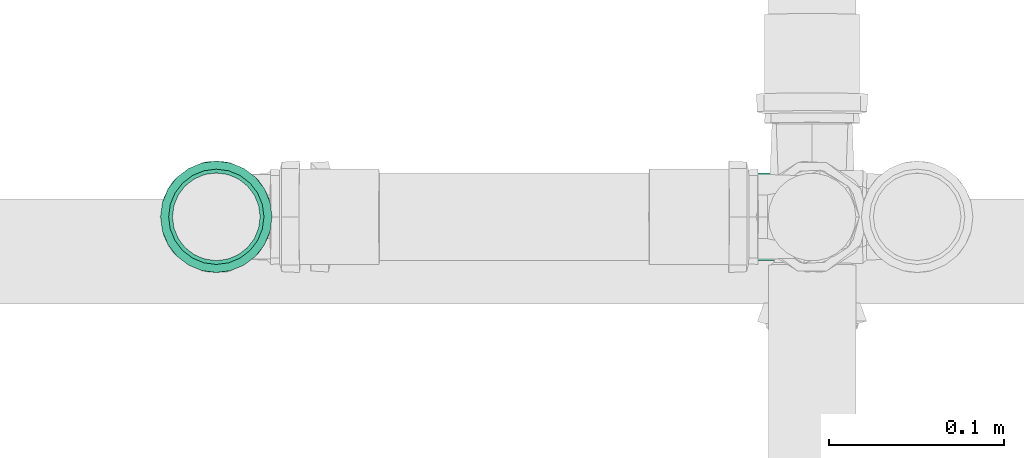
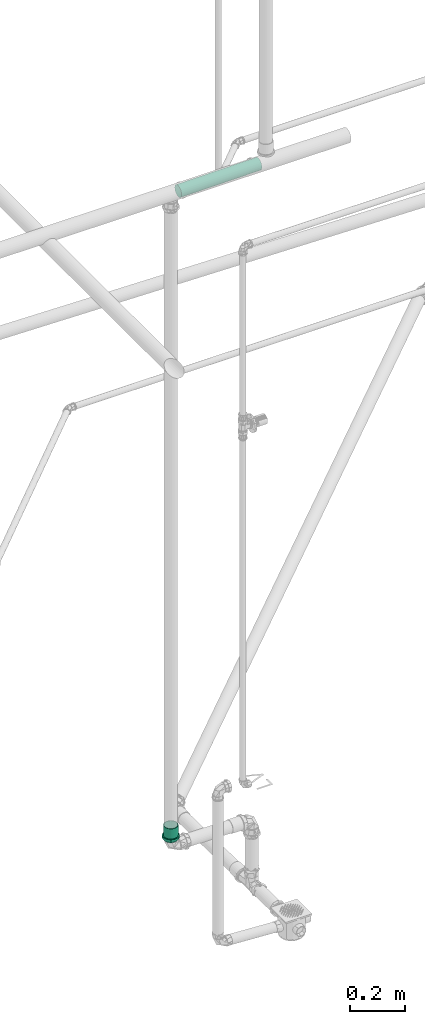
# One storey, part 120 of 589: 1 flow fitting, 1 flow segment.
"""IFC2X3 building model written with IfcOpenShell, lengths in millimetres."""

import ifcopenshell
import ifcopenshell.guid

model = None  # the IFC model being written
_history = None  # IfcOwnerHistory: only IFC2X3 demands one
_inside = {}  # id of a spatial element -> (the spatial element, [elements in it])
_under = {}  # id of a project, library or spatial element -> (it, [spatial elements below it])
_declared = {}  # id of a project -> (the project, [libraries it declares])
_typed = {}  # id of a type object -> (the type object, [elements of that type])
_made_of = {}  # id of a material, layer set ... -> (it, [elements and type objects made of it])


def new_model(schema):
    """Start an empty IFC model of exactly this schema.

    Asked for "IFC4X3", IfcOpenShell would pick the latest addendum, in which some entities
    have other attributes; the version numbers below select the first issue.
    IFC2X3 requires an IfcOwnerHistory on every rooted entity: one is made here for all.
    """
    global model, _history
    if schema == "IFC4X3":
        model = ifcopenshell.file(schema_version=(4, 3, 0, 0))
    else:
        model = ifcopenshell.file(schema=schema)
    _inside.clear()
    _under.clear()
    _declared.clear()
    _typed.clear()
    _made_of.clear()
    _history = None
    if model.schema == "IFC2X3":
        org = make("IfcOrganization", Name="unknown")
        user = make(
            "IfcPersonAndOrganization",
            ThePerson=make("IfcPerson", FamilyName="unknown"),
            TheOrganization=org,
        )
        app = make(
            "IfcApplication",
            ApplicationDeveloper=org,
            Version="unknown",
            ApplicationFullName="unknown",
            ApplicationIdentifier="unknown",
        )
        _history = make(
            "IfcOwnerHistory",
            OwningUser=user,
            OwningApplication=app,
            ChangeAction="ADDED",
            CreationDate=0,
        )
    return model


def make(cls, **values):
    """One entity of the class cls with the attributes given. An attribute that is None is left unset."""
    return model.create_entity(
        cls, **{name: value for name, value in values.items() if value is not None}
    )


def entity(cls, *values):
    """Any entity or typed value of the class cls, its attributes in the order of the schema. None: left unset."""
    e = model.create_entity(cls)
    for i, value in enumerate(values):
        if value is not None:
            e[i] = value
    return e


def rooted(cls, **values):
    """An entity with a GlobalId (a new one), such as an element, a storey or a relation."""
    return make(cls, GlobalId=ifcopenshell.guid.new(), OwnerHistory=_history, **values)


def si_unit(unit_type, name, prefix=None):
    """IfcSIUnit, for example si_unit("LENGTHUNIT", "METRE", prefix="MILLI")."""
    return make("IfcSIUnit", UnitType=unit_type, Prefix=prefix, Name=name)


def converted_unit(unit_type, name, factor, base, dimensions=None, offset=None):
    """IfcConversionBasedUnit, such as the inch: factor (a typed value) times the base unit."""
    return make(
        "IfcConversionBasedUnit"
        if offset is None
        else "IfcConversionBasedUnitWithOffset",
        ConversionOffset=offset,
        Dimensions=None
        if dimensions is None
        else entity("IfcDimensionalExponents", *dimensions),
        UnitType=unit_type,
        Name=name,
        ConversionFactor=make(
            "IfcMeasureWithUnit", ValueComponent=factor, UnitComponent=base
        ),
    )


def derived_unit(unit_type, elements):
    """IfcDerivedUnit: a product of units, each with its exponent."""
    return make(
        "IfcDerivedUnit",
        Elements=[
            make("IfcDerivedUnitElement", Unit=unit, Exponent=power)
            for unit, power in elements
        ],
        UnitType=unit_type,
    )


def assignment(units):
    """IfcUnitAssignment: the units of a project."""
    return None if units is None else make("IfcUnitAssignment", Units=units)


def point(xyz):
    """IfcCartesianPoint."""
    return None if xyz is None else make("IfcCartesianPoint", Coordinates=xyz)


def direction(xyz):
    """IfcDirection."""
    return None if xyz is None else make("IfcDirection", DirectionRatios=xyz)


def frame(location, z_axis=None, x_axis=None):
    """IfcAxis2Placement3D, a coordinate frame: its origin and axes. An axis left out is left unset."""
    return make(
        "IfcAxis2Placement3D",
        Location=point(location),
        Axis=direction(z_axis),
        RefDirection=direction(x_axis),
    )


def frame_2d(location, x_axis=None):
    """IfcAxis2Placement2D, a coordinate frame in the plane: its origin and x axis."""
    return make(
        "IfcAxis2Placement2D", Location=point(location), RefDirection=direction(x_axis)
    )


def origin():
    """The frame at (0, 0, 0) with its axes left unset."""
    return frame((0.0, 0.0, 0.0))


def place(relative_to, where):
    """IfcLocalPlacement: puts the frame where relative to a parent placement (None: the world)."""
    return make(
        "IfcLocalPlacement", PlacementRelTo=relative_to, RelativePlacement=where
    )


def context(
    kind, dimensions, precision=None, world=None, true_north=None, identifier=None
):
    """IfcGeometricRepresentationContext, for example the 3D "Model" context."""
    return make(
        "IfcGeometricRepresentationContext",
        ContextIdentifier=identifier,
        ContextType=kind,
        CoordinateSpaceDimension=dimensions,
        Precision=precision,
        WorldCoordinateSystem=world,
        TrueNorth=true_north,
    )


def subcontext(parent, identifier, kind, view, scale=None):
    """IfcGeometricRepresentationSubContext, for example "Body" below "Model"."""
    return make(
        "IfcGeometricRepresentationSubContext",
        ContextIdentifier=identifier,
        ContextType=kind,
        ParentContext=parent,
        TargetScale=scale,
        TargetView=view,
    )


def project(units=None, contexts=None):
    """IfcProject with its units and contexts."""
    return rooted(
        "IfcProject",
        Name="project",
        RepresentationContexts=contexts,
        UnitsInContext=assignment(units),
    )


def spatial(cls, under=None, at=None, **own):
    """A site, building, storey or space (cls), placed at a placement, below another one or the project."""
    s = rooted(cls, ObjectPlacement=at, **own)
    if under is not None:
        _under.setdefault(under.id(), (under, []))[1].append(s)
    return s


def profile(cls, at=None, kind="AREA", **sizes):
    """A parametric profile (cls). Its sizes go by their IFC names, for example OverallWidth=200.0."""
    return make(cls, ProfileType=kind, Position=at, **sizes)


def circle(**sizes):
    """IfcCircleProfileDef."""
    return profile("IfcCircleProfileDef", **sizes)


def extrude(swept, where, along, depth):
    """IfcExtrudedAreaSolid: the profile swept, set in the frame where, extruded along a direction by depth."""
    return make(
        "IfcExtrudedAreaSolid",
        SweptArea=swept,
        Position=where,
        ExtrudedDirection=direction(along),
        Depth=depth,
    )


def faces_of(points, faces, orient=None, outer=None):
    """IfcFace entities. A face is a list of loops; a loop is a list of indices into points, from 0.

    orient and outer hold one flag for each loop. By default every Orientation is true, the
    first loop of a face is its IfcFaceOuterBound and the others are IfcFaceBound.
    """
    made = []
    for i, loops in enumerate(faces):
        bounds = []
        for j, loop in enumerate(loops):
            is_outer = j == 0 if outer is None else outer[i][j]
            bounds.append(
                make(
                    "IfcFaceOuterBound" if is_outer else "IfcFaceBound",
                    Bound=make("IfcPolyLoop", Polygon=[points[k] for k in loop]),
                    Orientation=True if orient is None else orient[i][j],
                )
            )
        made.append(make("IfcFace", Bounds=bounds))
    return made


def faceted_brep(points, faces, orient=None, outer=None, voids=None):
    """IfcFacetedBrep: a solid bounded by flat faces; with voids (closed shells), ...WithVoids."""
    shared = [point(p) for p in points]
    hull = make("IfcClosedShell", CfsFaces=faces_of(shared, faces, orient, outer))
    if voids is None:
        return make("IfcFacetedBrep", Outer=hull)
    return make(
        "IfcFacetedBrepWithVoids",
        Outer=hull,
        Voids=[
            make(cls, CfsFaces=faces_of(shared, fs, o, b)) for cls, fs, o, b in voids
        ],
    )


def shape(context_of_items, identifier, shape_type, items):
    """IfcShapeRepresentation: the items that make up one representation, for example the "Body"."""
    return make(
        "IfcShapeRepresentation",
        ContextOfItems=context_of_items,
        RepresentationIdentifier=identifier,
        RepresentationType=shape_type,
        Items=items,
    )


def source(mapping_origin, context_of_items, identifier, shape_type, items):
    """IfcRepresentationMap: a shape defined once, which mapped items show again and again."""
    return make(
        "IfcRepresentationMap",
        MappingOrigin=mapping_origin,
        MappedRepresentation=shape(context_of_items, identifier, shape_type, items),
    )


def transform(
    local_origin,
    x_axis=None,
    y_axis=None,
    z_axis=None,
    scale=None,
    scale2=None,
    scale3=None,
    uniform=True,
):
    """IfcCartesianTransformationOperator3D, or its non-uniform kind. x_axis, y_axis, z_axis: its Axis1, 2, 3."""
    if uniform:
        return make(
            "IfcCartesianTransformationOperator3D",
            Axis1=direction(x_axis),
            Axis2=direction(y_axis),
            LocalOrigin=point(local_origin),
            Scale=scale,
            Axis3=direction(z_axis),
        )
    return make(
        "IfcCartesianTransformationOperator3DnonUniform",
        Axis1=direction(x_axis),
        Axis2=direction(y_axis),
        LocalOrigin=point(local_origin),
        Scale=scale,
        Axis3=direction(z_axis),
        Scale2=scale2,
        Scale3=scale3,
    )


def mapped(mapping_source, mapping_target):
    """IfcMappedItem: shows the shape of a source again, moved by a transform."""
    return make(
        "IfcMappedItem", MappingSource=mapping_source, MappingTarget=mapping_target
    )


def material(Name=None, Category=None):
    """IfcMaterial."""
    return make("IfcMaterial", Name=Name, Category=Category)


def made_of(thing, what):
    """Note that an element or type object is made of a material, layer set ...; save() writes the relation."""
    if what is not None:
        _made_of.setdefault(what.id(), (what, []))[1].append(thing)
    return thing


def type_object(cls, material=None, **own):
    """A type object (cls), such as IfcWallType, which elements share."""
    return made_of(rooted(cls, **own), material)


def type_shapes(of_type, sources):
    """Give a type object the sources (RepresentationMaps) that its elements show as mapped items."""
    of_type.RepresentationMaps = sources


def element(
    cls,
    number,
    at=None,
    inside=None,
    cuts=None,
    type_object=None,
    material=None,
    context=None,
    identifier="Body",
    shape_type=None,
    held_by="IfcProductDefinitionShape",
    body=None,
    shapes=None,
    **own,
):
    """One element of the class cls, such as IfcWall. Its Tag is "e" and its number.

    at: its placement. inside: the storey or other place that contains it. cuts: it is an
    opening in that element (IfcRelVoidsElement). A single representation is given by context,
    identifier, shape_type and body (its items); several are given by shapes. held_by: the class
    of the entity that holds the representations. save() writes the other relations.
    """
    e = rooted(cls, Tag="e%d" % number, ObjectPlacement=at, **own)
    if body is not None:
        shapes = [shape(context, identifier, shape_type, body)]
    if shapes is not None:
        e.Representation = make(held_by, Representations=shapes)
    if inside is not None:
        _inside.setdefault(inside.id(), (inside, []))[1].append(e)
    if cuts is not None:
        rooted(
            "IfcRelVoidsElement", RelatingBuildingElement=cuts, RelatedOpeningElement=e
        )
    if type_object is not None:
        _typed.setdefault(type_object.id(), (type_object, []))[1].append(e)
    return made_of(e, material)


def aggregate(whole, parts):
    """IfcRelAggregates: a whole, such as a stair, and the parts it consists of."""
    return rooted("IfcRelAggregates", RelatingObject=whole, RelatedObjects=parts)


def save(model, path):
    """Write the relations noted so far, then the file.

    IfcRelAggregates (storeys below a building ...), IfcRelContainedInSpatialStructure (elements
    in a storey), IfcRelDefinesByType, IfcRelAssociatesMaterial and IfcRelDeclares: one each for
    every whole, place, type object, material and project.
    """
    for whole, parts in _under.values():
        aggregate(whole, parts)
    for where, things in _inside.values():
        rooted(
            "IfcRelContainedInSpatialStructure",
            RelatedElements=things,
            RelatingStructure=where,
        )
    for kind, things in _typed.values():
        rooted("IfcRelDefinesByType", RelatedObjects=things, RelatingType=kind)
    for what, things in _made_of.values():
        rooted("IfcRelAssociatesMaterial", RelatedObjects=things, RelatingMaterial=what)
    for by, libraries in _declared.values():
        rooted("IfcRelDeclares", RelatingContext=by, RelatedDefinitions=libraries)
    model.write(path)


model = new_model("IFC2X3")

# Units and contexts
model_context = context("Model", 3, precision=0.01, world=origin(), true_north=direction((6.123031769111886e-17, 1.0)))
body_context = subcontext(model_context, "Body", "Model", "MODEL_VIEW")
ifc_project = project(units=[si_unit("LENGTHUNIT", "METRE", prefix="MILLI"), si_unit("AREAUNIT", "SQUARE_METRE"), si_unit("VOLUMEUNIT", "CUBIC_METRE"), converted_unit("PLANEANGLEUNIT", "DEGREE", entity("IfcRatioMeasure", 0.017453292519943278), si_unit("PLANEANGLEUNIT", "RADIAN"), dimensions=[0, 0, 0, 0, 0, 0, 0]), si_unit("MASSUNIT", "GRAM", prefix="KILO"), derived_unit("MASSDENSITYUNIT", [(si_unit("MASSUNIT", "GRAM", prefix="KILO"), 1), (si_unit("LENGTHUNIT", "METRE"), -3)]), derived_unit("IONCONCENTRATIONUNIT", [(si_unit("MASSUNIT", "GRAM", prefix="KILO"), 1), (si_unit("LENGTHUNIT", "METRE"), -3)]), derived_unit("MOMENTOFINERTIAUNIT", [(si_unit("LENGTHUNIT", "METRE"), 4)]), si_unit("TIMEUNIT", "SECOND"), si_unit("FREQUENCYUNIT", "HERTZ"), si_unit("THERMODYNAMICTEMPERATUREUNIT", "DEGREE_CELSIUS"), derived_unit("THERMALTRANSMITTANCEUNIT", [(si_unit("MASSUNIT", "GRAM", prefix="KILO"), 1), (si_unit("THERMODYNAMICTEMPERATUREUNIT", "KELVIN"), -1), (si_unit("TIMEUNIT", "SECOND"), -3)]), derived_unit("THERMALCONDUCTANCEUNIT", [(si_unit("MASSUNIT", "GRAM", prefix="KILO"), 1), (si_unit("THERMODYNAMICTEMPERATUREUNIT", "KELVIN"), -1), (si_unit("TIMEUNIT", "SECOND"), -3), (si_unit("LENGTHUNIT", "METRE"), 1)]), derived_unit("VOLUMETRICFLOWRATEUNIT", [(si_unit("LENGTHUNIT", "METRE"), 3), (si_unit("TIMEUNIT", "SECOND"), -1)]), derived_unit("MASSFLOWRATEUNIT", [(si_unit("MASSUNIT", "GRAM", prefix="KILO"), 1), (si_unit("TIMEUNIT", "SECOND"), -1)]), derived_unit("ROTATIONALFREQUENCYUNIT", [(si_unit("TIMEUNIT", "SECOND"), -1)]), si_unit("ELECTRICCURRENTUNIT", "AMPERE"), si_unit("ELECTRICVOLTAGEUNIT", "VOLT"), si_unit("POWERUNIT", "WATT"), si_unit("FORCEUNIT", "NEWTON", prefix="KILO"), si_unit("ILLUMINANCEUNIT", "LUX"), si_unit("LUMINOUSFLUXUNIT", "LUMEN"), si_unit("LUMINOUSINTENSITYUNIT", "CANDELA"), derived_unit("USERDEFINED", [(si_unit("MASSUNIT", "GRAM", prefix="KILO"), -1), (si_unit("LENGTHUNIT", "METRE"), -2), (si_unit("TIMEUNIT", "SECOND"), 3), (si_unit("LUMINOUSFLUXUNIT", "LUMEN"), 1)]), derived_unit("USERDEFINED", [(si_unit("MASSUNIT", "GRAM", prefix="KILO"), 1), (si_unit("TIMEUNIT", "SECOND"), -3), (si_unit("LENGTHUNIT", "METRE"), 3), (si_unit("ELECTRICCURRENTUNIT", "AMPERE"), -2)]), derived_unit("SOUNDPOWERUNIT", [(si_unit("MASSUNIT", "GRAM", prefix="KILO"), 1), (si_unit("TIMEUNIT", "SECOND"), -3), (si_unit("LENGTHUNIT", "METRE"), 2)]), derived_unit("SOUNDPRESSUREUNIT", [(si_unit("MASSUNIT", "GRAM", prefix="KILO"), 1), (si_unit("LENGTHUNIT", "METRE"), -1), (si_unit("TIMEUNIT", "SECOND"), -2)]), derived_unit("LINEARVELOCITYUNIT", [(si_unit("LENGTHUNIT", "METRE"), 1), (si_unit("TIMEUNIT", "SECOND"), -1)]), si_unit("PRESSUREUNIT", "PASCAL"), derived_unit("USERDEFINED", [(si_unit("MASSUNIT", "GRAM", prefix="KILO"), 1), (si_unit("LENGTHUNIT", "METRE"), -2), (si_unit("TIMEUNIT", "SECOND"), -2)]), derived_unit("LINEARFORCEUNIT", [(si_unit("MASSUNIT", "GRAM", prefix="KILO"), 1), (si_unit("TIMEUNIT", "SECOND"), -2)]), derived_unit("PLANARFORCEUNIT", [(si_unit("MASSUNIT", "GRAM", prefix="KILO"), 1), (si_unit("LENGTHUNIT", "METRE"), -1), (si_unit("TIMEUNIT", "SECOND"), -2)]), derived_unit("SPECIFICHEATCAPACITYUNIT", [(si_unit("THERMODYNAMICTEMPERATUREUNIT", "KELVIN"), -1), (si_unit("LENGTHUNIT", "METRE"), 2), (si_unit("TIMEUNIT", "SECOND"), -2)]), derived_unit("HEATINGVALUEUNIT", [(si_unit("LENGTHUNIT", "METRE"), 2), (si_unit("TIMEUNIT", "SECOND"), -2)]), derived_unit("VAPORPERMEABILITYUNIT", [(si_unit("LENGTHUNIT", "METRE"), -1), (si_unit("TIMEUNIT", "SECOND"), 1)]), derived_unit("DYNAMICVISCOSITYUNIT", [(si_unit("MASSUNIT", "GRAM", prefix="KILO"), 1), (si_unit("TIMEUNIT", "SECOND"), -1), (si_unit("LENGTHUNIT", "METRE"), -1)]), derived_unit("THERMALEXPANSIONCOEFFICIENTUNIT", [(si_unit("THERMODYNAMICTEMPERATUREUNIT", "KELVIN"), -1)]), derived_unit("MODULUSOFELASTICITYUNIT", [(si_unit("MASSUNIT", "GRAM", prefix="KILO"), 1), (si_unit("LENGTHUNIT", "METRE"), -1), (si_unit("TIMEUNIT", "SECOND"), -2)]), derived_unit("ISOTHERMALMOISTURECAPACITYUNIT", [(si_unit("LENGTHUNIT", "METRE"), 3), (si_unit("MASSUNIT", "GRAM", prefix="KILO"), -1)]), derived_unit("MOISTUREDIFFUSIVITYUNIT", [(si_unit("TIMEUNIT", "SECOND"), -1), (si_unit("LENGTHUNIT", "METRE"), 2)])], contexts=[model_context])

# Site, building, storey
site_placement = place(None, origin())
site = spatial("IfcSite", under=ifc_project, at=site_placement, Name="Default", CompositionType="ELEMENT")
building_placement = place(site_placement, origin())
building = spatial("IfcBuilding", under=site, at=building_placement, CompositionType="ELEMENT")
storey_placement = place(building_placement, frame((0.0, 0.0, 100.0)))
storey = spatial("IfcBuildingStorey", under=building, at=storey_placement, Name="TÉRREO", CompositionType="ELEMENT", Elevation=100.0)

# Flow segment
pipe_segment_type = type_object("IfcPipeSegmentType", Name="Tipos de tubos:PVC Esgoto Série Normal", PredefinedType="NOTDEFINED")
flow_segment_placement = place(storey_placement, origin())
element("IfcFlowSegment", 1, at=flow_segment_placement, inside=storey, type_object=pipe_segment_type, Name="Tipos de tubos:PVC Esgoto Série Normal", ObjectType="Tipos de tubos:PVC Esgoto Série Normal", context=body_context, shape_type="SweptSolid", body=[
    extrude(circle(Radius=25.0, at=frame_2d((6.767919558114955e-14, 5.414064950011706e-13), x_axis=(1.0, 0.0))), frame((4611.874531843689, -509.1682332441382, 2983.709397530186), z_axis=(0.9999500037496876, 0.0, 0.00999950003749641), x_axis=(0.0, -1.0, 0.0)), (0.0, 0.0, 1.0), 338.13739956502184),
])

# Flow fitting
ifc_material = material(Name="PVC Série Normal")
pipe_fitting_type = type_object("IfcPipeFittingType", Name="PVC Esgoto_Luva Simples para Conexão_Rodrigo MEP:Standard", PredefinedType="NOTDEFINED", material=ifc_material)
shared_shape = source(origin(), body_context, "Body", "Brep", [
    faceted_brep([(16.599999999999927, 15.900000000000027, -27.53960784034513), (16.599999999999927, 22.485995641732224, -22.485995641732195), (16.599999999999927, 13.599999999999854, -23.555890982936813), (16.599999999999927, 7.039878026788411, -26.273182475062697), (16.599999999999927, 8.2304456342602, -30.71644127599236), (16.599999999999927, 19.233304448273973, -19.233304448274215), (16.599999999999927, 27.539607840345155, -15.899999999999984), (16.599999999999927, 23.55589098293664, -13.600000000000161), (16.599999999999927, 26.273182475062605, -7.03987802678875), (16.599999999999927, 30.716441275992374, -8.230445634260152), (16.599999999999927, 27.2, 0.0), (16.599999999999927, 31.8, 0.0), (16.599999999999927, 26.273182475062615, 7.0398780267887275), (16.599999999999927, 30.71644127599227, 8.23044563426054), (16.599999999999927, 23.555890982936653, 13.60000000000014), (16.599999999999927, 27.539607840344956, 15.900000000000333), (16.599999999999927, 19.233304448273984, 19.2333044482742), (16.599999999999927, 22.485995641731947, 22.48599564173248), (16.599999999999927, 13.599999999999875, 23.555890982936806), (16.599999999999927, 15.899999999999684, 27.53960784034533), (16.599999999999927, 7.039878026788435, 26.27318247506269), (16.599999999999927, 8.230445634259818, 30.716441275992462), (16.599999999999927, 0.0, 27.2), (16.599999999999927, 0.0, 31.8), (16.599999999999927, -7.039878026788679, 26.273182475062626), (16.599999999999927, -8.230445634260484, 30.716441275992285), (16.599999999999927, -13.600000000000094, 23.555890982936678), (16.599999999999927, -15.900000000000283, 27.53960784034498), (16.599999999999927, -19.23330444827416, 19.233304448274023), (16.599999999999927, -22.485995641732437, 22.48599564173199), (16.599999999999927, -23.55589098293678, 13.59999999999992), (16.599999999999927, -27.539607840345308, 15.899999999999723), (16.599999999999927, -30.71644127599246, 8.230445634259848), (16.599999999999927, -26.273182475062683, 7.039878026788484), (16.599999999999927, -31.8, 0.0), (16.599999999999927, -27.2, 0.0), (16.599999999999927, -30.71644127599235, -8.23044563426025), (16.599999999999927, -26.273182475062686, -7.03987802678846), (16.599999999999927, -27.53960784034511, -15.90000000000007), (16.599999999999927, -23.55589098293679, -13.599999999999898), (16.599999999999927, -22.485995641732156, -22.485995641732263), (16.599999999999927, -19.233304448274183, -19.233304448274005), (16.599999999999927, -15.899999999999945, -27.53960784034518), (16.599999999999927, -13.600000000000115, -23.555890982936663), (16.599999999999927, -8.230445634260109, -30.716441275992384), (16.599999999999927, -7.039878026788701, -26.273182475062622), (16.599999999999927, 0.0, -31.8), (16.599999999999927, 0.0, -27.2), (6.500000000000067, -10.708108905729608, 29.429219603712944), (6.500000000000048, -24.359073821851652, 20.44200387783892), (6.500000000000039, -27.120498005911, 15.6595386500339), (6.50000000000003, -29.881922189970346, 10.877073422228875), (6.500000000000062, -15.89769721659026, 27.540937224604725), (6.500000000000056, -20.128385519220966, 23.991470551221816), (6.50000000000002, -30.840961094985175, 5.438536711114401), (6.5000000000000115, -31.8, 0.0), (6.50000000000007, -5.518520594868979, 31.317501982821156), (6.500000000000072, 5.526376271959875, 31.316116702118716), (6.50000000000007, 0.00392783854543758, 31.316809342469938), (6.500000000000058, 20.134403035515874, 23.986420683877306), (6.500000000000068, 10.715490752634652, 29.42653259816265), (6.500000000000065, 15.904605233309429, 27.536948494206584), (6.500000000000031, 29.8846497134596, 10.869577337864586), (6.500000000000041, 27.12442527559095, 15.652735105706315), (6.5000000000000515, 24.364200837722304, 20.435892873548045), (6.5000000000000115, 31.8, 0.0), (6.499999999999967, 24.364200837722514, -20.435892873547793), (6.499999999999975, 27.12442527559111, -15.652735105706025), (6.499999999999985, 29.884649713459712, -10.869577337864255), (6.4999999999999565, 15.904605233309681, -27.53694849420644), (6.499999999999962, 20.134403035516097, -23.986420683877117), (6.499999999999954, 10.715490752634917, -29.42653259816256), (6.499999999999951, 5.526376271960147, -31.31611670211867), (6.499999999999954, -5.518520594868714, -31.317501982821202), (6.499999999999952, 0.003927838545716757, -31.316809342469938), (6.499999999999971, -20.128385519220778, -23.99147055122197), (6.499999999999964, -15.897697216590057, -27.54093722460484), (6.499999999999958, -10.70810890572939, -29.42921960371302), (6.499999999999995, -29.881922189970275, -10.877073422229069), (6.499999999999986, -27.12049800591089, -15.659538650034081), (6.499999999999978, -24.359073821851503, -20.442003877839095), (6.500000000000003, -30.840961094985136, -5.438536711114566), (6.499999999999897, -30.696173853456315, -6.259599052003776), (62.0, 13.600000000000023, -23.55589098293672), (62.0, 19.233304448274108, -19.23330444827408), (62.0, 12.499999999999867, -21.650635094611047), (62.0, 6.470476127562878, -24.14814565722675), (62.0, 7.039878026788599, -26.273182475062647), (62.0, 17.677669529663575, -17.677669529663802), (62.0, 23.55589098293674, -13.599999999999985), (62.0, 21.65063509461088, -12.50000000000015), (62.0, 24.148145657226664, -6.470476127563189), (62.0, 26.27318247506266, -7.039878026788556), (62.0, 25.0, 0.0), (62.0, 27.2, 0.0), (62.0, 24.148145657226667, 6.4704761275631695), (62.0, 26.273182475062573, 7.03987802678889), (62.0, 21.650635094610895, 12.500000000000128), (62.0, 23.555890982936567, 13.600000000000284), (62.0, 17.67766952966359, 17.67766952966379), (62.0, 19.233304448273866, 19.233304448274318), (62.0, 12.499999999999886, 21.650635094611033), (62.0, 13.59999999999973, 23.55589098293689), (62.0, 6.4704761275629, 24.14814565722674), (62.0, 7.039878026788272, 26.273182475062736), (62.0, 0.0, 25.0), (62.0, 0.0, 27.2), (62.0, -6.470476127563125, 24.148145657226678), (62.0, -7.039878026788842, 26.273182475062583), (62.0, -12.500000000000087, 21.650635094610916), (62.0, -13.600000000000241, 23.555890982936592), (62.0, -17.677669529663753, 17.677669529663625), (62.0, -19.233304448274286, 19.2333044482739), (62.0, -21.65063509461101, 12.499999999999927), (62.0, -23.555890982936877, 13.599999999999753), (62.0, -26.27318247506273, 7.039878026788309), (62.0, -24.14814565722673, 6.470476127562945), (62.0, -27.2, 0.0), (62.0, -25.0, 0.0), (62.0, -26.27318247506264, -7.0398780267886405), (62.0, -24.148145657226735, -6.470476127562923), (62.0, -23.5558909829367, -13.600000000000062), (62.0, -21.650635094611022, -12.499999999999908), (62.0, -19.233304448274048, -19.233304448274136), (62.0, -17.67766952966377, -17.677669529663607), (62.0, -13.599999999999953, -23.555890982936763), (62.0, -12.500000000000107, -21.650635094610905), (62.0, -7.039878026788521, -26.27318247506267), (62.0, -6.470476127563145, -24.148145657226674), (62.0, 0.0, -27.2), (62.0, 0.0, -25.0), (0.0, 12.499999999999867, -21.650635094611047), (0.0, 19.233304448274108, -19.23330444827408), (0.0, 13.600000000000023, -23.55589098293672), (0.0, 6.470476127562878, -24.14814565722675), (0.0, 17.677669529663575, -17.677669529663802), (0.0, 23.55589098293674, -13.599999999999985), (0.0, 21.65063509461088, -12.50000000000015), (0.0, 24.148145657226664, -6.470476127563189), (0.0, 26.27318247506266, -7.039878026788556), (0.0, 25.0, 0.0), (0.0, 27.2, 0.0), (0.0, 24.148145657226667, 6.4704761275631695), (0.0, 26.273182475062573, 7.03987802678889), (0.0, 21.650635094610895, 12.500000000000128), (0.0, 23.555890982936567, 13.600000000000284), (0.0, 17.67766952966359, 17.67766952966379), (0.0, 19.233304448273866, 19.233304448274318), (0.0, 12.499999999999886, 21.650635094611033), (0.0, 13.59999999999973, 23.55589098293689), (0.0, 6.4704761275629, 24.14814565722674), (0.0, 7.039878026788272, 26.273182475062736), (0.0, 0.0, 25.0), (0.0, 0.0, 27.2), (0.0, -6.470476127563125, 24.148145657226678), (0.0, -7.039878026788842, 26.273182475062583), (0.0, -12.500000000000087, 21.650635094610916), (0.0, -13.600000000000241, 23.555890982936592), (0.0, -17.677669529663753, 17.677669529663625), (0.0, -19.233304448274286, 19.2333044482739), (0.0, -21.65063509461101, 12.499999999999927), (0.0, -23.555890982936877, 13.599999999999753), (0.0, -26.27318247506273, 7.039878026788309), (0.0, -24.14814565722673, 6.470476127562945), (0.0, -27.2, 0.0), (0.0, -25.0, 0.0), (0.0, -26.27318247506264, -7.0398780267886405), (0.0, -24.148145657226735, -6.470476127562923), (0.0, -23.5558909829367, -13.600000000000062), (0.0, -21.650635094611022, -12.499999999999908), (0.0, -19.233304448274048, -19.233304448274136), (0.0, -17.67766952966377, -17.677669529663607), (0.0, -13.599999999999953, -23.555890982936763), (0.0, -12.500000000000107, -21.650635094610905), (0.0, -7.039878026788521, -26.27318247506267), (0.0, -6.470476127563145, -24.148145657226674), (0.0, 0.0, -27.2), (0.0, 0.0, -25.0), (0.0, 7.039878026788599, -26.273182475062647), (5.300000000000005, -26.37968999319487, 4.651830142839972), (5.299999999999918, -26.25584678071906, 5.354122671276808), (5.300000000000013, -25.559379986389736, 9.303660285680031), (5.300000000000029, -20.835434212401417, 17.48498444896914), (5.300000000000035, -17.216732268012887, 20.521006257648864), (5.300000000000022, -23.19740709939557, 13.394322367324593), (5.3000000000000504, -4.720244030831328, 26.787297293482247), (5.300000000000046, -9.15913717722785, 25.172162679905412), (5.299999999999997, -27.2, 0.0), (5.300000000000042, -13.598030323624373, 23.557028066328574), (5.300000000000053, 9.165451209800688, 25.169864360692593), (5.300000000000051, 13.603939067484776, 23.55361632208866), (5.300000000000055, 4.7269633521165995, 26.786112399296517), (5.300000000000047, 17.221879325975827, 20.516686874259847), (5.300000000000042, 20.839819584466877, 17.479757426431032), (5.3000000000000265, 25.56171296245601, 9.297248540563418), (5.299999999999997, 27.2, 0.0), (5.3000000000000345, 23.20076627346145, 13.388502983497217), (5.300000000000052, 0.003359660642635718, 26.786704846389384), (5.299999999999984, 25.56171296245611, -9.29724854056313), (5.299999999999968, 20.839819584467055, -17.47975742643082), (5.2999999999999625, 17.22187932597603, -20.516686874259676), (5.299999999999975, 23.200766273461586, -13.388502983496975), (5.299999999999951, 4.726963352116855, -26.78611239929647), (5.2999999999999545, 9.165451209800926, -25.169864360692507), (5.299999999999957, 13.603939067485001, -23.553616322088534), (5.29999999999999, -26.379689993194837, -4.651830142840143), (5.299999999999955, -9.159137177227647, -25.17216267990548), (5.299999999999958, -13.5980303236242, -23.55702806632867), (5.299999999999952, -4.720244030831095, -26.787297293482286), (5.299999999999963, -17.216732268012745, -20.52100625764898), (5.299999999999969, -20.83543421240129, -17.484984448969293), (5.299999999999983, -25.559379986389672, -9.303660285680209), (5.299999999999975, -23.197407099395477, -13.394322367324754), (5.299999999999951, 0.003359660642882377, -26.78670484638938), (39.0, -25.0, 0.0), (39.0, 25.0, 0.0)], [[[0, 1, 2]], [[0, 2, 3]], [[3, 4, 0]], [[2, 1, 5]], [[6, 5, 1]], [[7, 5, 6]], [[8, 7, 6]], [[8, 6, 9]], [[8, 9, 10]], [[10, 9, 11]], [[12, 10, 11]], [[12, 11, 13]], [[14, 12, 13]], [[14, 13, 15]], [[16, 14, 15]], [[15, 17, 16]], [[17, 18, 16]], [[17, 19, 18]], [[18, 19, 20]], [[21, 20, 19]], [[20, 21, 22]], [[22, 21, 23]], [[22, 23, 24]], [[24, 23, 25]], [[24, 25, 26]], [[27, 26, 25]], [[27, 28, 26]], [[28, 27, 29]], [[30, 28, 29]], [[31, 30, 29]], [[32, 30, 31]], [[33, 30, 32]], [[33, 32, 34]], [[35, 33, 34]], [[36, 35, 34]], [[36, 37, 35]], [[37, 36, 38]], [[39, 37, 38]], [[39, 38, 40]], [[39, 40, 41]], [[40, 42, 41]], [[41, 42, 43]], [[43, 42, 44]], [[44, 45, 43]], [[46, 45, 44]], [[4, 47, 46]], [[46, 47, 45]], [[4, 3, 47]], [[48, 27, 25]], [[31, 29, 49]], [[31, 49, 50, 51]], [[52, 53, 27]], [[32, 51, 54]], [[54, 55, 34]], [[54, 34, 32]], [[25, 56, 48]], [[49, 29, 53]], [[23, 57, 58, 56]], [[59, 19, 17]], [[27, 53, 29]], [[48, 52, 27]], [[31, 51, 32]], [[57, 23, 21]], [[60, 19, 61]], [[15, 62, 63, 64]], [[19, 60, 21]], [[15, 13, 62]], [[17, 64, 59]], [[57, 21, 60]], [[23, 56, 25]], [[15, 64, 17]], [[13, 65, 62]], [[13, 11, 65]], [[59, 61, 19]], [[65, 11, 9]], [[6, 1, 66]], [[6, 66, 67, 68]], [[69, 70, 0]], [[68, 65, 9]], [[71, 69, 0]], [[71, 0, 4]], [[4, 72, 71]], [[66, 1, 70]], [[46, 73, 74, 72]], [[75, 76, 42]], [[0, 70, 1]], [[75, 42, 40]], [[6, 68, 9]], [[73, 46, 44]], [[77, 42, 76]], [[38, 78, 79, 80]], [[42, 77, 44]], [[38, 36, 78]], [[40, 80, 75]], [[73, 44, 77]], [[46, 72, 4]], [[38, 80, 40]], [[36, 81, 82, 78]], [[55, 81, 34]], [[34, 81, 36]], [[83, 84, 85]], [[83, 85, 86]], [[86, 87, 83]], [[85, 84, 88]], [[89, 88, 84]], [[88, 89, 90]], [[90, 89, 91]], [[92, 91, 89]], [[92, 93, 91]], [[93, 92, 94]], [[95, 93, 94]], [[94, 96, 95]], [[95, 96, 97]], [[98, 97, 96]], [[97, 98, 99]], [[99, 98, 100]], [[101, 99, 100]], [[100, 102, 101]], [[101, 102, 103]], [[104, 103, 102]], [[103, 104, 105]], [[105, 104, 106]], [[105, 106, 107]], [[107, 106, 108]], [[107, 108, 109]], [[110, 109, 108]], [[110, 111, 109]], [[111, 110, 112]], [[112, 113, 111]], [[114, 113, 112]], [[113, 114, 115]], [[115, 116, 113]], [[117, 116, 115]], [[117, 118, 116]], [[119, 118, 117]], [[119, 120, 118]], [[120, 119, 121]], [[121, 122, 120]], [[122, 121, 123]], [[122, 123, 124]], [[123, 125, 124]], [[124, 125, 126]], [[126, 125, 127]], [[127, 128, 126]], [[129, 128, 127]], [[87, 130, 129]], [[129, 130, 128]], [[87, 86, 130]], [[131, 132, 133]], [[134, 131, 133]], [[135, 132, 131]], [[132, 135, 136]], [[137, 136, 135]], [[138, 136, 137]], [[136, 138, 139]], [[138, 140, 139]], [[141, 139, 140]], [[141, 140, 142]], [[142, 143, 141]], [[144, 143, 142]], [[143, 144, 145]], [[146, 145, 144]], [[147, 145, 146]], [[147, 146, 148]], [[148, 149, 147]], [[150, 149, 148]], [[149, 150, 151]], [[152, 151, 150]], [[153, 151, 152]], [[154, 153, 152]], [[155, 153, 154]], [[156, 155, 154]], [[155, 156, 157]], [[156, 158, 157]], [[159, 157, 158]], [[158, 160, 159]], [[159, 160, 161]], [[162, 161, 160]], [[160, 163, 162]], [[162, 163, 164]], [[163, 165, 164]], [[164, 165, 166]], [[165, 167, 166]], [[168, 166, 167]], [[167, 169, 168]], [[170, 168, 169]], [[171, 170, 169]], [[171, 172, 170]], [[173, 172, 171]], [[174, 172, 173]], [[173, 175, 174]], [[174, 175, 176]], [[175, 177, 176]], [[177, 134, 178]], [[176, 177, 178]], [[133, 178, 134]], [[162, 179, 180, 181]], [[159, 182, 183]], [[182, 161, 181, 184]], [[185, 155, 186]], [[161, 162, 181]], [[187, 179, 164]], [[183, 188, 157]], [[183, 157, 159]], [[161, 182, 159]], [[189, 190, 149]], [[189, 149, 151]], [[157, 188, 186]], [[157, 186, 155]], [[153, 155, 185]], [[164, 179, 162]], [[151, 191, 189]], [[147, 192, 193]], [[143, 194, 195]], [[194, 145, 193, 196]], [[143, 195, 141]], [[10, 12, 96, 94]], [[149, 192, 147]], [[153, 185, 197, 191]], [[153, 191, 151]], [[145, 147, 193]], [[190, 192, 149]], [[145, 194, 143]], [[139, 195, 198]], [[132, 199, 200]], [[199, 136, 198, 201]], [[202, 178, 203]], [[136, 139, 198]], [[139, 141, 195]], [[92, 8, 10, 94]], [[133, 203, 178]], [[200, 204, 133]], [[136, 199, 132]], [[205, 164, 166]], [[206, 207, 172]], [[133, 204, 203]], [[206, 172, 174]], [[176, 178, 202]], [[200, 133, 132]], [[174, 208, 206]], [[170, 209, 210]], [[166, 211, 205]], [[211, 168, 210, 212]], [[168, 211, 166]], [[172, 209, 170]], [[176, 202, 213, 208]], [[176, 208, 174]], [[168, 170, 210]], [[207, 209, 172]], [[205, 187, 164]], [[116, 118, 214, 165, 163]], [[156, 109, 111, 158]], [[111, 113, 160, 158]], [[113, 116, 163, 160]], [[107, 109, 156, 154]], [[154, 152, 105, 107]], [[103, 105, 152, 150]], [[103, 150, 148, 101]], [[142, 95, 97, 144]], [[97, 99, 146, 144]], [[99, 101, 148, 146]], [[93, 95, 142, 140, 215]], [[215, 140, 138, 91, 93]], [[135, 131, 85, 88]], [[90, 91, 138, 137]], [[90, 137, 135, 88]], [[86, 85, 131, 134]], [[134, 177, 130, 86]], [[128, 130, 177, 175]], [[128, 175, 173, 126]], [[167, 120, 122, 169]], [[122, 124, 171, 169]], [[124, 126, 173, 171]], [[118, 120, 167, 165, 214]], [[211, 78, 82, 81, 55, 187, 205]], [[79, 78, 211, 212, 210, 80]], [[75, 80, 210, 209, 207, 76]], [[207, 206, 208, 73, 77, 76]], [[213, 202, 72, 74, 73, 208]], [[203, 204, 69, 71, 72, 202]], [[198, 195, 65, 68]], [[199, 201, 198, 68, 67, 66]], [[204, 200, 199, 66, 70, 69]], [[195, 194, 62, 65]], [[197, 185, 56, 58, 57, 191]], [[63, 62, 194, 196, 193, 64]], [[57, 60, 61, 190, 189, 191]], [[193, 192, 190, 61, 59, 64]], [[48, 56, 185, 186, 188, 52]], [[187, 55, 54, 51, 181, 180, 179]], [[182, 184, 181, 51, 50, 49]], [[188, 183, 182, 49, 53, 52]], [[30, 33, 115, 114]], [[117, 115, 33, 35]], [[26, 28, 112, 110]], [[114, 112, 28, 30]], [[24, 26, 110, 108]], [[108, 106, 22, 24]], [[18, 20, 104, 102]], [[100, 16, 18, 102]], [[12, 14, 98, 96]], [[100, 98, 14, 16]], [[104, 20, 22, 106]], [[89, 7, 8, 92]], [[83, 87, 3, 2]], [[7, 89, 84, 5]], [[83, 2, 5, 84]], [[87, 129, 47, 3]], [[43, 45, 127, 125]], [[123, 41, 43, 125]], [[37, 39, 121, 119]], [[123, 121, 39, 41]], [[35, 37, 119, 117]], [[127, 45, 47, 129]]]),
])
type_shapes(pipe_fitting_type, [shared_shape])
flow_fitting_placement = place(storey_placement, frame((4580.9347788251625, -509.1682332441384, 114.34129996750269), z_axis=(0.0, 1.0, 0.0), x_axis=(0.0, 0.0, 1.0)))
element("IfcFlowFitting", 2, at=flow_fitting_placement, inside=storey, type_object=pipe_fitting_type, material=ifc_material, Name="PVC Esgoto_Luva Simples para Conexão_Rodrigo MEP:Standard", ObjectType="PVC Esgoto_Luva Simples para Conexão_Rodrigo MEP:Standard", context=body_context, shape_type="MappedRepresentation", body=[
    mapped(shared_shape, transform((0.0, 0.0, 0.0), scale=1.0)),
])

save(model, "model.ifc")
